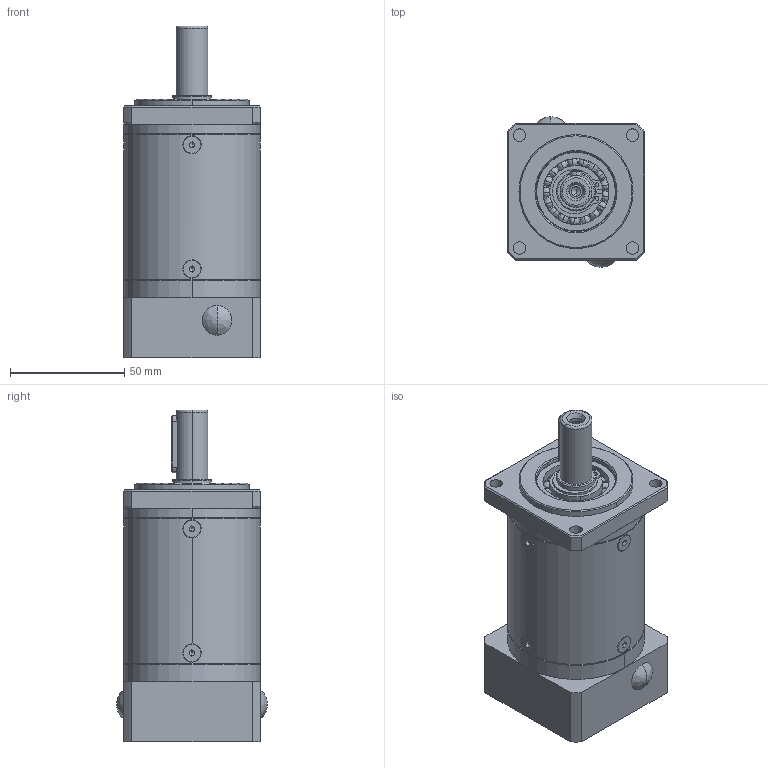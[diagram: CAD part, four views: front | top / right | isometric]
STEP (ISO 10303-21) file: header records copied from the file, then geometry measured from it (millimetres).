
FILE_DESCRIPTION (( 'STEP AP214' ), '1' );
FILE_NAME ('PF60L3-50-14-M5.STEP', '2020-09-02T09:08:57', ( '微软用户' ), ( '微软中国' ), 'SwSTEP 2.0', 'SolidWorks 2014', '' );
FILE_SCHEMA (( 'AUTOMOTIVE_DESIGN' ));
Length unit declared in the file: millimetre
Products named in the file (112): 幗渀粣創7X10; 俴陎殤8A; Circlips for holes--Type A GB_GB_CONNECTING_PIECE_RING_RRH 37; Hexagon socket countersunk head screws GB_GB_FASTENER_SCREWS_HSCHS M4X10-N; PF60L3-50-14-M5; 俴陎謫菜え5X10; 俴陎謫3A; 薊粣ん14; 黑裔9; 三级内齿圈; 笢潔怮栠謫5A; 俴陎謫菜え7.2X13.5; 怀堤傷裔; O形密封圈2X35; Circlips for hole--Type B GB_GB_CONNECTING_PIECE_RINGS_CHB 35; Deep groove ball bearings GB_Rolling bearings 61904 GB 276-94; Deep groove ball bearings GB_Rolling bearings 6003 GB 276-94; 怀堤粣3A; Circlips for shaft--Type A large GB_GB_CONNECTING_PIECE_RING_RRA 17; 幗渀粣創5X8; 路燭菜え28X49.5; 俴陎粣5X13.5; 俴陎殤5A; 笢潔怮栠謫3A; 路燭菜え18X49.5; 俴陎謫5A; 俴陎粣7X13.5; 俴陎謫8A; 俴陎謫菜え7.2X17; 珨撰怮栠謫8A; Circlips for shaft--Type B GB_GB_CONNECTING_PIECE_RINGS_CSB 20; Plain parallel keys_GB_CONNECTING_PIECE_KEYS_CSK 5X25; Hexagon socket head cap screws GB_GB_FASTENER_SCREWS_HSHCS M5X16-N; 输入端盖
Assembly tree (78 placements, depth 2):
  幗渀粣創7X10
  幗渀粣創7X10
  俴陎殤8A
  幗渀粣創7X10
  Circlips for holes--Type A GB_GB_CONNECTING_PIECE_RING_RRH 37
Bounding box: 60 x 66 x 145.5 mm (x, y, z)
Volume: 276407.3 mm3; surface area: 145311.4 mm2
Topology: 78 solids, 78 shells, 1446 faces, 4089 edges, 2494 vertices
Faces by surface type: cylinder 538, plane 388, bspline 342, cone 178
Entity records: 39596 total; most frequent: CARTESIAN_POINT 15294, ORIENTED_EDGE 4888, DIRECTION 4307, EDGE_CURVE 2444, AXIS2_PLACEMENT_3D 1831, VERTEX_POINT 1594, CIRCLE 1094, EDGE_LOOP 1040
